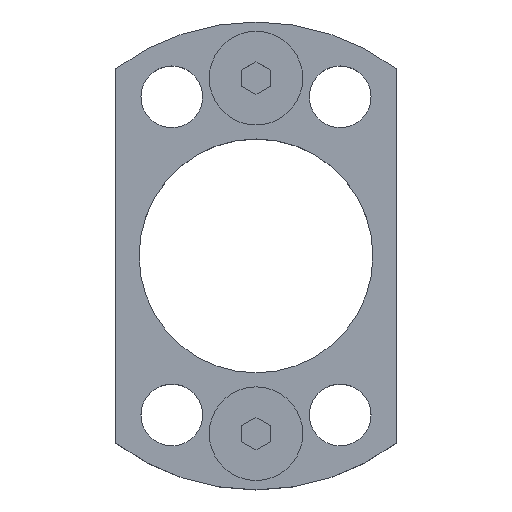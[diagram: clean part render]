
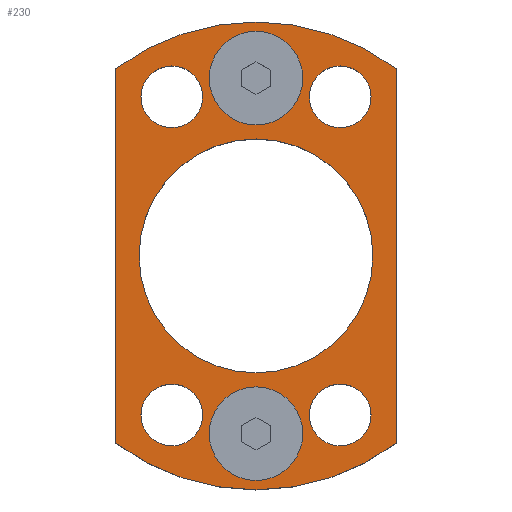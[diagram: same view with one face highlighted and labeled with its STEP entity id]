
A CAD part, top view. The second image highlights one B-rep face of the part: STEP entity #230.
In plain terms, the highlighted planar face has unit normal (0, 0, 1).
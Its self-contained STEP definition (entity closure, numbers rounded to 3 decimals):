
#143=FACE_BOUND('',#445,.T.);
#144=FACE_BOUND('',#446,.T.);
#145=FACE_BOUND('',#447,.T.);
#146=FACE_BOUND('',#448,.T.);
#147=FACE_BOUND('',#449,.T.);
#148=FACE_BOUND('',#450,.T.);
#149=FACE_BOUND('',#451,.T.);
#150=FACE_BOUND('',#452,.T.);
#164=PLANE('',#1603);
#230=ADVANCED_FACE('',(#143,#144,#145,#146,#147,#148,#149,#150),#164,.T.);
#445=EDGE_LOOP('',(#809,#810,#811,#812));
#446=EDGE_LOOP('',(#813,#814));
#447=EDGE_LOOP('',(#815,#816));
#448=EDGE_LOOP('',(#817,#818));
#449=EDGE_LOOP('',(#819,#820));
#450=EDGE_LOOP('',(#821,#822));
#451=EDGE_LOOP('',(#823,#824));
#452=EDGE_LOOP('',(#825,#826));
#524=CIRCLE('',#1540,25.);
#526=CIRCLE('',#1544,25.);
#528=CIRCLE('',#1548,3.3);
#530=CIRCLE('',#1551,3.3);
#532=CIRCLE('',#1554,3.3);
#534=CIRCLE('',#1557,3.3);
#536=CIRCLE('',#1560,3.3);
#538=CIRCLE('',#1563,3.3);
#540=CIRCLE('',#1566,3.3);
#542=CIRCLE('',#1569,3.3);
#547=CIRCLE('',#1577,5.);
#548=CIRCLE('',#1579,5.);
#550=CIRCLE('',#1582,12.5);
#552=CIRCLE('',#1585,12.5);
#561=CIRCLE('',#1601,5.);
#562=CIRCLE('',#1602,5.);
#809=ORIENTED_EDGE('',*,*,#1149,.T.);
#810=ORIENTED_EDGE('',*,*,#1158,.T.);
#811=ORIENTED_EDGE('',*,*,#1155,.T.);
#812=ORIENTED_EDGE('',*,*,#1152,.T.);
#813=ORIENTED_EDGE('',*,*,#1211,.F.);
#814=ORIENTED_EDGE('',*,*,#1212,.F.);
#815=ORIENTED_EDGE('',*,*,#1192,.F.);
#816=ORIENTED_EDGE('',*,*,#1190,.F.);
#817=ORIENTED_EDGE('',*,*,#1161,.T.);
#818=ORIENTED_EDGE('',*,*,#1164,.T.);
#819=ORIENTED_EDGE('',*,*,#1167,.T.);
#820=ORIENTED_EDGE('',*,*,#1170,.T.);
#821=ORIENTED_EDGE('',*,*,#1173,.T.);
#822=ORIENTED_EDGE('',*,*,#1176,.T.);
#823=ORIENTED_EDGE('',*,*,#1179,.T.);
#824=ORIENTED_EDGE('',*,*,#1182,.T.);
#825=ORIENTED_EDGE('',*,*,#1195,.T.);
#826=ORIENTED_EDGE('',*,*,#1198,.T.);
#1005=VERTEX_POINT('',#2226);
#1006=VERTEX_POINT('',#2228);
#1008=VERTEX_POINT('',#2234);
#1010=VERTEX_POINT('',#2240);
#1013=VERTEX_POINT('',#2250);
#1014=VERTEX_POINT('',#2252);
#1017=VERTEX_POINT('',#2262);
#1018=VERTEX_POINT('',#2264);
#1021=VERTEX_POINT('',#2274);
#1022=VERTEX_POINT('',#2276);
#1025=VERTEX_POINT('',#2286);
#1026=VERTEX_POINT('',#2288);
#1031=VERTEX_POINT('',#2307);
#1032=VERTEX_POINT('',#2309);
#1035=VERTEX_POINT('',#2318);
#1036=VERTEX_POINT('',#2320);
#1045=VERTEX_POINT('',#2353);
#1046=VERTEX_POINT('',#2354);
#1149=EDGE_CURVE('',#1006,#1005,#524,.T.);
#1152=EDGE_CURVE('',#1008,#1006,#1306,.T.);
#1155=EDGE_CURVE('',#1010,#1008,#526,.T.);
#1158=EDGE_CURVE('',#1005,#1010,#1310,.T.);
#1161=EDGE_CURVE('',#1014,#1013,#528,.T.);
#1164=EDGE_CURVE('',#1013,#1014,#530,.T.);
#1167=EDGE_CURVE('',#1018,#1017,#532,.T.);
#1170=EDGE_CURVE('',#1017,#1018,#534,.T.);
#1173=EDGE_CURVE('',#1022,#1021,#536,.T.);
#1176=EDGE_CURVE('',#1021,#1022,#538,.T.);
#1179=EDGE_CURVE('',#1026,#1025,#540,.T.);
#1182=EDGE_CURVE('',#1025,#1026,#542,.T.);
#1190=EDGE_CURVE('',#1031,#1032,#547,.T.);
#1192=EDGE_CURVE('',#1032,#1031,#548,.T.);
#1195=EDGE_CURVE('',#1036,#1035,#550,.T.);
#1198=EDGE_CURVE('',#1035,#1036,#552,.T.);
#1211=EDGE_CURVE('',#1045,#1046,#561,.T.);
#1212=EDGE_CURVE('',#1046,#1045,#562,.T.);
#1306=LINE('',#2233,#1406);
#1310=LINE('',#2244,#1410);
#1406=VECTOR('',#1805,1.);
#1410=VECTOR('',#1817,1.);
#1540=AXIS2_PLACEMENT_3D('',#2227,#1799,#1800);
#1544=AXIS2_PLACEMENT_3D('',#2239,#1811,#1812);
#1548=AXIS2_PLACEMENT_3D('',#2251,#1823,#1824);
#1551=AXIS2_PLACEMENT_3D('',#2256,#1830,#1831);
#1554=AXIS2_PLACEMENT_3D('',#2263,#1837,#1838);
#1557=AXIS2_PLACEMENT_3D('',#2268,#1844,#1845);
#1560=AXIS2_PLACEMENT_3D('',#2275,#1851,#1852);
#1563=AXIS2_PLACEMENT_3D('',#2280,#1858,#1859);
#1566=AXIS2_PLACEMENT_3D('',#2287,#1865,#1866);
#1569=AXIS2_PLACEMENT_3D('',#2292,#1872,#1873);
#1577=AXIS2_PLACEMENT_3D('',#2308,#1891,#1892);
#1579=AXIS2_PLACEMENT_3D('',#2312,#1896,#1897);
#1582=AXIS2_PLACEMENT_3D('',#2319,#1903,#1904);
#1585=AXIS2_PLACEMENT_3D('',#2324,#1910,#1911);
#1601=AXIS2_PLACEMENT_3D('',#2352,#1946,#1947);
#1602=AXIS2_PLACEMENT_3D('',#2355,#1948,#1949);
#1603=AXIS2_PLACEMENT_3D('',#2356,#1950,#1951);
#1799=DIRECTION('',(0.,0.,1.));
#1800=DIRECTION('',(0.776,0.631,0.));
#1805=DIRECTION('',(0.,1.,0.));
#1811=DIRECTION('',(0.,0.,1.));
#1812=DIRECTION('',(-0.776,-0.631,0.));
#1817=DIRECTION('',(0.,-1.,0.));
#1823=DIRECTION('',(0.,0.,-1.));
#1824=DIRECTION('',(-1.,0.,0.));
#1830=DIRECTION('',(0.,0.,-1.));
#1831=DIRECTION('',(1.,0.,0.));
#1837=DIRECTION('',(0.,0.,-1.));
#1838=DIRECTION('',(-1.,0.,0.));
#1844=DIRECTION('',(0.,0.,-1.));
#1845=DIRECTION('',(1.,0.,0.));
#1851=DIRECTION('',(0.,0.,-1.));
#1852=DIRECTION('',(-1.,0.,0.));
#1858=DIRECTION('',(0.,0.,-1.));
#1859=DIRECTION('',(1.,0.,0.));
#1865=DIRECTION('',(0.,0.,-1.));
#1866=DIRECTION('',(-1.,0.,0.));
#1872=DIRECTION('',(0.,0.,-1.));
#1873=DIRECTION('',(1.,0.,0.));
#1891=DIRECTION('',(0.,0.,1.));
#1892=DIRECTION('',(1.,0.,0.));
#1896=DIRECTION('',(0.,0.,1.));
#1897=DIRECTION('',(-1.,0.,0.));
#1903=DIRECTION('',(0.,0.,-1.));
#1904=DIRECTION('',(-1.,0.,0.));
#1910=DIRECTION('',(0.,0.,-1.));
#1911=DIRECTION('',(1.,0.,0.));
#1946=DIRECTION('',(0.,0.,1.));
#1947=DIRECTION('',(-1.,0.,0.));
#1948=DIRECTION('',(0.,0.,1.));
#1949=DIRECTION('',(1.,0.,0.));
#1950=DIRECTION('',(0.,0.,1.));
#1951=DIRECTION('',(0.8,-0.6,0.));
#2226=CARTESIAN_POINT('',(-15.,20.,11.));
#2227=CARTESIAN_POINT('',(0.,0.,11.));
#2228=CARTESIAN_POINT('',(15.,20.,11.));
#2233=CARTESIAN_POINT('',(15.,20.,11.));
#2234=CARTESIAN_POINT('',(15.,-20.,11.));
#2239=CARTESIAN_POINT('',(0.,0.,11.));
#2240=CARTESIAN_POINT('',(-15.,-20.,11.));
#2244=CARTESIAN_POINT('',(-15.,20.,11.));
#2250=CARTESIAN_POINT('',(9.,13.7,11.));
#2251=CARTESIAN_POINT('',(9.,17.,11.));
#2252=CARTESIAN_POINT('',(9.,20.3,11.));
#2256=CARTESIAN_POINT('',(9.,17.,11.));
#2262=CARTESIAN_POINT('',(-9.,13.7,11.));
#2263=CARTESIAN_POINT('',(-9.,17.,11.));
#2264=CARTESIAN_POINT('',(-9.,20.3,11.));
#2268=CARTESIAN_POINT('',(-9.,17.,11.));
#2274=CARTESIAN_POINT('',(9.,-20.3,11.));
#2275=CARTESIAN_POINT('',(9.,-17.,11.));
#2276=CARTESIAN_POINT('',(9.,-13.7,11.));
#2280=CARTESIAN_POINT('',(9.,-17.,11.));
#2286=CARTESIAN_POINT('',(-9.,-20.3,11.));
#2287=CARTESIAN_POINT('',(-9.,-17.,11.));
#2288=CARTESIAN_POINT('',(-9.,-13.7,11.));
#2292=CARTESIAN_POINT('',(-9.,-17.,11.));
#2307=CARTESIAN_POINT('',(0.,-14.,11.));
#2308=CARTESIAN_POINT('',(0.,-19.,11.));
#2309=CARTESIAN_POINT('',(0.,-24.,11.));
#2312=CARTESIAN_POINT('',(0.,-19.,11.));
#2318=CARTESIAN_POINT('',(0.,-12.5,11.));
#2319=CARTESIAN_POINT('',(0.,0.,11.));
#2320=CARTESIAN_POINT('',(0.,12.5,11.));
#2324=CARTESIAN_POINT('',(0.,0.,11.));
#2352=CARTESIAN_POINT('',(0.,19.,11.));
#2353=CARTESIAN_POINT('',(0.,14.,11.));
#2354=CARTESIAN_POINT('',(0.,24.,11.));
#2355=CARTESIAN_POINT('',(0.,19.,11.));
#2356=CARTESIAN_POINT('',(15.,20.,11.));
